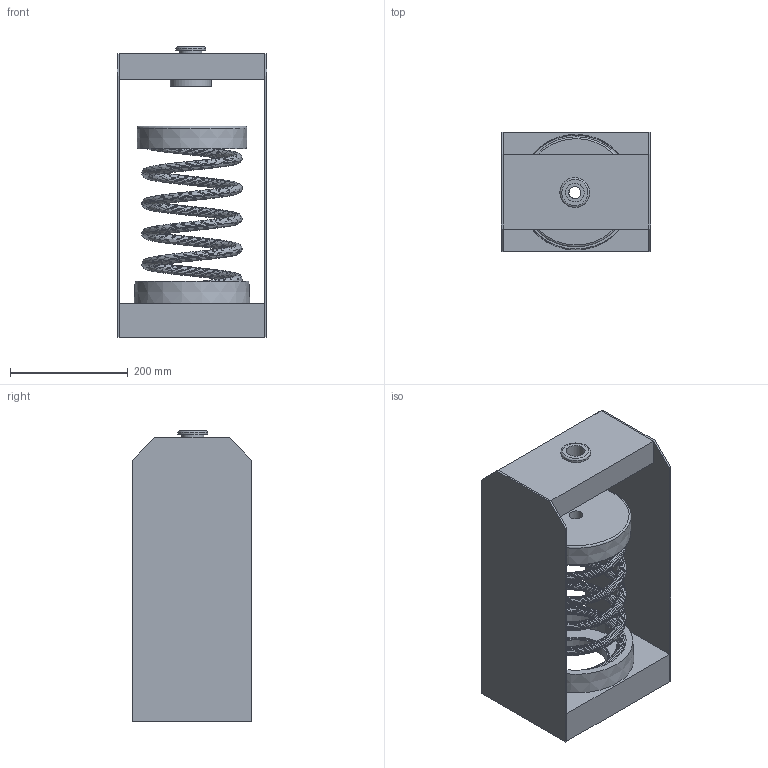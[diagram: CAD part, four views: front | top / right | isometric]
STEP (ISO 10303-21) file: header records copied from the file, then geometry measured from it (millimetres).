
FILE_DESCRIPTION(/* description */ (''),/* implementation_level */ '2;1');
FILE_NAME(/* name */ 'C:\001_Work\Designs\HANGER BOXES\30N 100 SERIES\30N-179-182\30N-182.stp',/* time_stamp */ '2015-06-16T11:36:39-04:00',/* author */ ('rramoutar'),/* organization */ ('Mason Industries Inc.'),/* preprocessor_version */ 'ST-DEVELOPER v15.6',/* originating_system */ 'Autodesk Inventor 2015',/* authorisation */ '');
FILE_SCHEMA (('AUTOMOTIVE_DESIGN { 1 0 10303 214 3 1 1 }'));
Length unit declared in the file: inch
Products named in the file (1): 30N-182
Bounding box: 254 x 203.2 x 494.44 mm (x, y, z)
Volume: 2478566.6 mm3; surface area: 1155338.4 mm2
Topology: 10 solids, 10 shells, 640 faces, 1667 edges, 1111 vertices
Faces by surface type: plane 425, bspline 167, cylinder 30, cone 16, torus 2
Full cylindrical faces by diameter (mm): 20.637 x1, 23.812 x1, 31.709 x1, 31.75 x1, 38.1 x2, 50.8 x1, 63.5 x2, 69.85 x1, 107.95 x1, 112.712 x1, 114.3 x2, 117.475 x2, 169.862 x1, 174.625 x2, 176.212 x1
Entity records: 33315 total; most frequent: CARTESIAN_POINT 18086, ORIENTED_EDGE 3276, DIRECTION 2318, EDGE_CURVE 1638, LINE 1182, VECTOR 1182, VERTEX_POINT 1108, EDGE_LOOP 746
